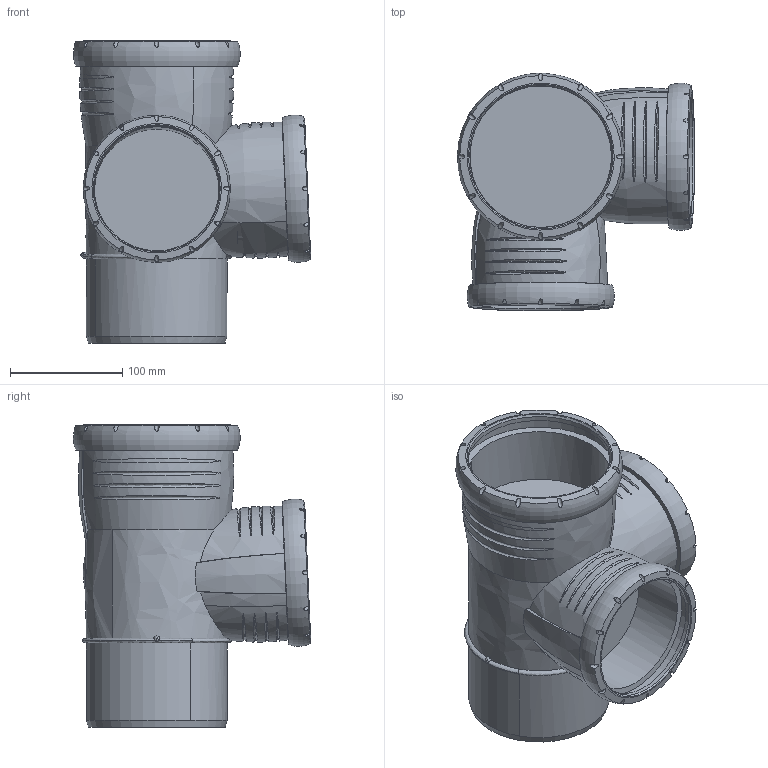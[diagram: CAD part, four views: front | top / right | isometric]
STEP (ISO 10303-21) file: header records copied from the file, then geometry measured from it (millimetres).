
FILE_DESCRIPTION(/* description */ (''),/* implementation_level */ '2;1');
FILE_NAME(/* name */ 'H:\Geberit-Teile\Export\Silent\stp\393662.stp',/* time_stamp */ '2017-03-30T11:36:54+02:00',/* author */ ('seihe2'),/* organization */ (''),/* preprocessor_version */ 'ST-DEVELOPER v15.2',/* originating_system */ 'Autodesk Inventor 2014',/* authorisation */ '');
FILE_SCHEMA (('AUTOMOTIVE_DESIGN { 1 0 10303 214 3 1 1 }'));
Length unit declared in the file: millimetre
Products named in the file (1): 393662
Bounding box: 211.04 x 211.06 x 269 mm (x, y, z)
Surface area: 325807.9 mm2 (no closed solid volume)
Topology: 0 solids, 1 shells, 293 faces, 830 edges, 562 vertices
Faces by surface type: bspline 140, plane 79, cone 56, cylinder 13, torus 5
Full cylindrical faces by diameter (mm): 111.3 x2, 115.2 x1, 121.5 x2, 126.4 x1, 138.1 x1
Entity records: 17503 total; most frequent: CARTESIAN_POINT 10949, ORIENTED_EDGE 1588, DIRECTION 936, EDGE_CURVE 794, VERTEX_POINT 549, AXIS2_PLACEMENT_3D 444, B_SPLINE_CURVE_WITH_KNOTS 403, EDGE_LOOP 337
